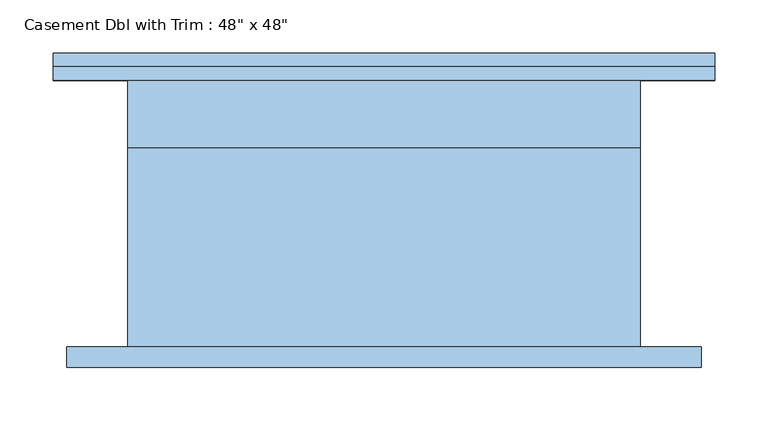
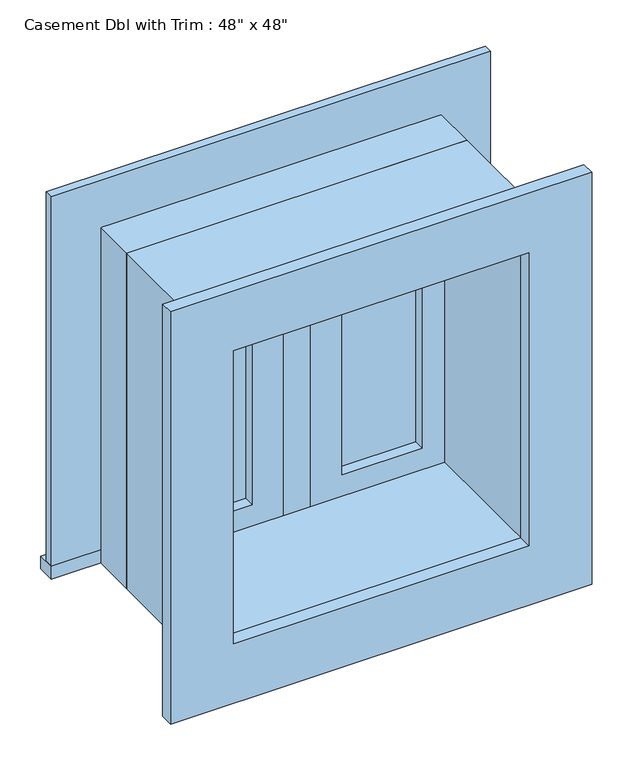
"""IFC4 building model written with IfcOpenShell, lengths in millimetres: window geometry."""

from ifc_helpers import new_model, si_unit, frame, origin, place, context, project, spatial, polyline, outline, extrude, source, transform, mapped, element, save


def window_a10a5faa(model_context):
    return source(origin(), model_context, "Body", "SweptSolid", [
        extrude(outline(polyline([(63.5, 109.125), (176.5, 109.125), (176.5, 96.425), (63.5, 96.425), (63.5, 109.125)])), frame((0.0, 0.0, 977.9), z_axis=(0.0, 0.0, 1.0), x_axis=(1.0, 0.0, 0.0)), (0.0, 0.0, 1.0), 373.0),
        extrude(outline(polyline([(1395.35, 19.05), (933.45, 19.05), (933.45, 220.95), (1395.35, 220.95), (1395.35, 19.05)]), holes=[polyline([(1350.9, 63.5), (1350.9, 176.5), (977.9, 176.5), (977.9, 63.5), (1350.9, 63.5)])]), frame((0.0, 80.55, 0.0), z_axis=(0.0, 1.0, 0.0), x_axis=(0.0, 0.0, 1.0)), (0.0, 0.0, 1.0), 44.45),
        extrude(outline(polyline([(19.05, 80.55), (-19.05, 80.55), (-19.05, 144.05), (19.05, 144.05), (19.05, 80.55)])), frame((0.0, 0.0, 933.45), z_axis=(0.0, 0.0, 1.0), x_axis=(1.0, 0.0, 0.0)), (0.0, 0.0, 1.0), 461.9),
        extrude(outline(polyline([(-309.85, 169.45), (309.85, 169.45), (309.85, 144.05), (-309.85, 144.05), (-309.85, 169.45)])), frame((0.0, 0.0, 914.4), z_axis=(0.0, 0.0, 1.0), x_axis=(1.0, 0.0, 0.0)), (0.0, 0.0, 1.0), 19.05),
        extrude(outline(polyline([(1395.35, -220.95), (1395.35, 220.95), (933.45, 220.95), (933.45, 309.85), (1484.25, 309.85), (1484.25, -309.85), (933.45, -309.85), (933.45, -220.95), (1395.35, -220.95)])), frame((0.0, 144.05, 0.0), z_axis=(0.0, 1.0, 0.0), x_axis=(0.0, 0.0, 1.0)), (0.0, 0.0, 1.0), 12.7),
        extrude(outline(polyline([(1471.55, 297.15), (1471.55, -297.15), (857.25, -297.15), (857.25, 297.15), (1471.55, 297.15)]), holes=[polyline([(1382.65, 208.25), (946.15, 208.25), (946.15, -208.25), (1382.65, -208.25), (1382.65, 208.25)])]), frame((0.0, -125.0, 0.0), z_axis=(0.0, 1.0, 0.0), x_axis=(0.0, 0.0, 1.0)), (0.0, 0.0, 1.0), 19.05),
        extrude(outline(polyline([(-63.5, 96.425), (-176.5, 96.425), (-176.5, 109.125), (-63.5, 109.125), (-63.5, 96.425)])), frame((0.0, 0.0, 977.9), z_axis=(0.0, 0.0, 1.0), x_axis=(1.0, 0.0, 0.0)), (0.0, 0.0, 1.0), 373.0),
        extrude(outline(polyline([(1395.35, -220.95), (933.45, -220.95), (933.45, -19.05), (1395.35, -19.05), (1395.35, -220.95)]), holes=[polyline([(1350.9, -176.5), (1350.9, -63.5), (977.9, -63.5), (977.9, -176.5), (1350.9, -176.5)])]), frame((0.0, 80.55, 0.0), z_axis=(0.0, 1.0, 0.0), x_axis=(0.0, 0.0, 1.0)), (0.0, 0.0, 1.0), 44.45),
        extrude(outline(polyline([(1414.4, -240.0), (914.4, -240.0), (914.4, 240.0), (1414.4, 240.0), (1414.4, -240.0)]), holes=[polyline([(1382.65, -208.25), (1382.65, 208.25), (946.15, 208.25), (946.15, -208.25), (1382.65, -208.25)])]), frame((0.0, -105.95, 0.0), z_axis=(0.0, 1.0, 0.0), x_axis=(0.0, 0.0, 1.0)), (0.0, 0.0, 1.0), 186.5),
        extrude(outline(polyline([(1414.4, 240.0), (1414.4, -240.0), (914.4, -240.0), (914.4, 240.0), (1414.4, 240.0)]), holes=[polyline([(1395.35, 220.95), (933.45, 220.95), (933.45, -220.95), (1395.35, -220.95), (1395.35, 220.95)])]), frame((0.0, 80.55, 0.0), z_axis=(0.0, 1.0, 0.0), x_axis=(0.0, 0.0, 1.0)), (0.0, 0.0, 1.0), 63.5),
    ])


if __name__ == "__main__":
    model = new_model("IFC4")
    model_context = context("Model", 3, world=origin())
    ifc_project = project(units=[si_unit("LENGTHUNIT", "METRE", prefix="MILLI")], contexts=[model_context])
    site = spatial("IfcSite", under=ifc_project)
    building = spatial("IfcBuilding", under=site)
    placement = place(None, origin())
    window_shape = window_a10a5faa(model_context)
    element("IfcWindow", 1, ObjectType="Casement Dbl with Trim : 48\" x 48\"", at=placement, inside=building, context=model_context, shape_type="MappedRepresentation", body=[
        mapped(window_shape, transform((0.0, 0.0, 0.0), x_axis=(1.0, 0.0, 0.0), y_axis=(0.0, 1.0, 0.0), z_axis=(0.0, 0.0, 1.0))),
    ])
    save(model, "model.ifc")
